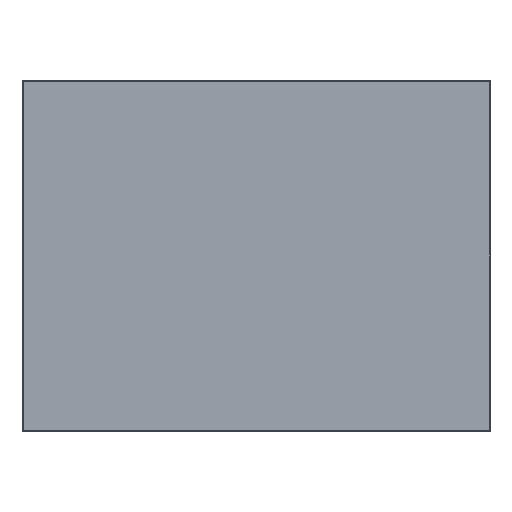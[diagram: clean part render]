
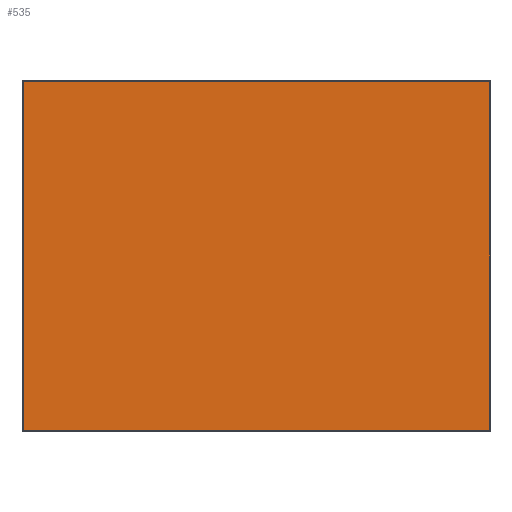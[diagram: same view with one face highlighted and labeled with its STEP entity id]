
A CAD part, left-side view. The second image highlights one B-rep face of the part: STEP entity #535.
In plain terms, the highlighted planar face has unit normal (-1, 0, 0).
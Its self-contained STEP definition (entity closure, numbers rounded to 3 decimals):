
#37=PLANE('',#584);
#41=LINE('',#763,#97);
#48=LINE('',#793,#104);
#52=LINE('',#799,#108);
#57=LINE('',#808,#113);
#97=VECTOR('',#614,399.);
#104=VECTOR('',#647,399.);
#108=VECTOR('',#655,298.);
#113=VECTOR('',#668,298.);
#188=FACE_OUTER_BOUND('',#224,.T.);
#224=EDGE_LOOP('',(#494,#495,#496,#497));
#249=VERTEX_POINT('',#756);
#251=VERTEX_POINT('',#761);
#257=VERTEX_POINT('',#782);
#260=VERTEX_POINT('',#789);
#296=EDGE_CURVE('',#251,#249,#41,.T.);
#311=EDGE_CURVE('',#257,#260,#48,.T.);
#315=EDGE_CURVE('',#249,#257,#52,.T.);
#320=EDGE_CURVE('',#251,#260,#57,.T.);
#494=ORIENTED_EDGE('',*,*,#296,.F.);
#495=ORIENTED_EDGE('',*,*,#320,.T.);
#496=ORIENTED_EDGE('',*,*,#311,.F.);
#497=ORIENTED_EDGE('',*,*,#315,.F.);
#535=ADVANCED_FACE('',(#188),#37,.T.);
#584=AXIS2_PLACEMENT_3D('',#884,#734,#735);
#614=DIRECTION('',(0.,1.,0.));
#647=DIRECTION('',(0.,-1.,0.));
#655=DIRECTION('',(0.,0.,1.));
#668=DIRECTION('',(0.,0.,1.));
#734=DIRECTION('center_axis',(-1.,0.,0.));
#735=DIRECTION('ref_axis',(0.,0.,1.));
#756=CARTESIAN_POINT('',(0.,399.,-299.));
#761=CARTESIAN_POINT('',(0.,0.,-299.));
#763=CARTESIAN_POINT('',(0.,0.,-299.));
#782=CARTESIAN_POINT('',(0.,399.,-1.));
#789=CARTESIAN_POINT('',(0.,0.,-1.));
#793=CARTESIAN_POINT('',(0.,0.,-1.));
#799=CARTESIAN_POINT('',(0.,399.,-225.));
#808=CARTESIAN_POINT('',(0.,0.,-300.));
#884=CARTESIAN_POINT('Origin',(0.,0.,-300.));
